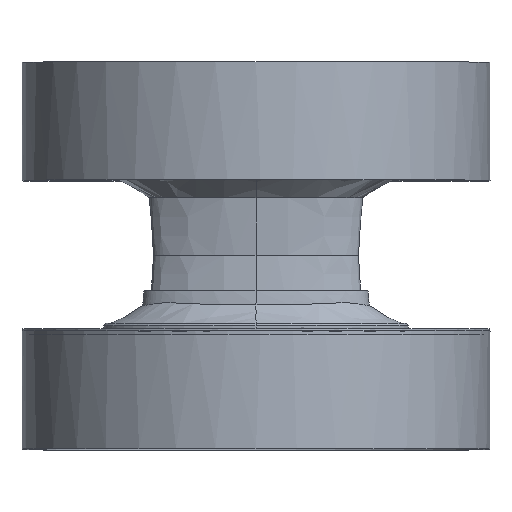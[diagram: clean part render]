
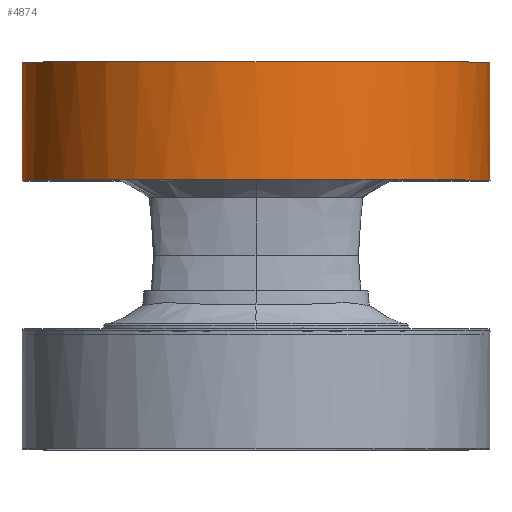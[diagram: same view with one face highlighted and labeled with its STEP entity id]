
A CAD part, top view. The second image highlights one B-rep face of the part: STEP entity #4874.
In plain terms, the highlighted cylindrical face has radius 26.5 mm (diameter 53 mm), a partial arc.
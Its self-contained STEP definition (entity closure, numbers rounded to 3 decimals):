
#4668=DIRECTION('',(0.,-1.,0.));
#4669=VECTOR('',#4668,13.348);
#4670=CARTESIAN_POINT('',(-26.5,19.7,
-14.4));
#4671=LINE('',#4670,#4669);
#4672=CARTESIAN_POINT('',(0.,19.7,
-14.4));
#4673=DIRECTION('',(0.,1.,0.));
#4674=DIRECTION('',(-1.,0.,0.));
#4675=AXIS2_PLACEMENT_3D('',#4672,#4673,#4674);
#4677=CARTESIAN_POINT('',(26.5,6.352,-14.4));
#4678=CARTESIAN_POINT('',(26.5,6.352,-13.015));
#4679=CARTESIAN_POINT('',(26.283,6.341,-10.239));
#4680=CARTESIAN_POINT('',(25.298,6.338,-6.141));
#4681=CARTESIAN_POINT('',(23.675,6.334,-2.255));
#4682=CARTESIAN_POINT('',(21.509,6.335,1.263));
#4683=CARTESIAN_POINT('',(18.792,6.338,4.441));
#4684=CARTESIAN_POINT('',(15.589,6.342,7.165));
#4685=CARTESIAN_POINT('',(12.043,6.346,9.326));
#4686=CARTESIAN_POINT('',(8.205,6.349,10.912));
#4687=CARTESIAN_POINT('',(4.151,6.351,11.883));
#4688=CARTESIAN_POINT('',(0.,6.352,
12.209));
#4689=CARTESIAN_POINT('',(-4.152,6.351,11.883));
#4690=CARTESIAN_POINT('',(-8.205,6.349,10.912));
#4691=CARTESIAN_POINT('',(-12.043,6.346,9.326));
#4692=CARTESIAN_POINT('',(-15.59,6.342,7.164));
#4693=CARTESIAN_POINT('',(-18.793,6.338,4.441));
#4694=CARTESIAN_POINT('',(-21.508,6.335,1.265));
#4695=CARTESIAN_POINT('',(-23.675,6.334,
-2.255));
#4696=CARTESIAN_POINT('',(-25.295,6.338,
-6.133));
#4697=CARTESIAN_POINT('',(-26.282,6.341,
-10.231));
#4698=CARTESIAN_POINT('',(-26.5,6.352,
-13.012));
#4699=CARTESIAN_POINT('',(-26.5,6.352,
-14.4));
#4715=DIRECTION('',(0.,-1.,0.));
#4716=VECTOR('',#4715,13.348);
#4717=CARTESIAN_POINT('',(26.5,19.7,-14.4));
#4718=LINE('',#4717,#4716);
#4830=CARTESIAN_POINT('',(-26.5,19.7,
-14.4));
#4831=CARTESIAN_POINT('',(26.5,19.7,-14.4));
#4832=VERTEX_POINT('',#4830);
#4833=VERTEX_POINT('',#4831);
#4856=CARTESIAN_POINT('',(26.5,6.352,-14.4));
#4857=VERTEX_POINT('',#4856);
#4858=VERTEX_POINT('',#4699);
#4859=CARTESIAN_POINT('',(0.,19.7,
-14.4));
#4860=DIRECTION('',(0.,1.,0.));
#4861=DIRECTION('',(1.,0.,0.));
#4862=AXIS2_PLACEMENT_3D('',#4859,#4860,#4861);
#4863=CYLINDRICAL_SURFACE('',#4862,26.5);
#4865=ORIENTED_EDGE('',*,*,#4864,.T.);
#4867=ORIENTED_EDGE('',*,*,#4866,.F.);
#4869=ORIENTED_EDGE('',*,*,#4868,.T.);
#4871=ORIENTED_EDGE('',*,*,#4870,.T.);
#4872=EDGE_LOOP('',(#4865,#4867,#4869,#4871));
#4873=FACE_OUTER_BOUND('',#4872,.F.);
#4874=ADVANCED_FACE('',(#4873),#4863,.T.);
#4676=CIRCLE('',#4675,26.5);
#4700=B_SPLINE_CURVE_WITH_KNOTS('',3,(#4677,#4678,#4679,#4680,#4681,#4682,#4683,
#4684,#4685,#4686,#4687,#4688,#4689,#4690,#4691,#4692,#4693,#4694,#4695,#4696,
#4697,#4698,#4699),.UNSPECIFIED.,.F.,.F.,(4,1,1,1,1,1,1,1,1,1,1,1,1,1,1,1,1,1,1,
1,4),(0.,0.05,0.1,0.15,0.2,0.25,0.3,0.35,0.4,0.45,0.5,
0.55,0.6,0.65,0.7,0.75,0.8,0.85,0.9,0.95,1.),.UNSPECIFIED.);
#4864=EDGE_CURVE('',#4857,#4858,#4700,.T.);
#4866=EDGE_CURVE('',#4832,#4858,#4671,.T.);
#4868=EDGE_CURVE('',#4832,#4833,#4676,.T.);
#4870=EDGE_CURVE('',#4833,#4857,#4718,.T.);
